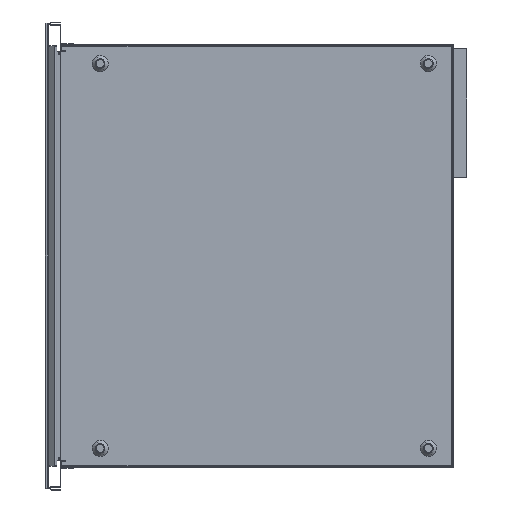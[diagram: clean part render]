
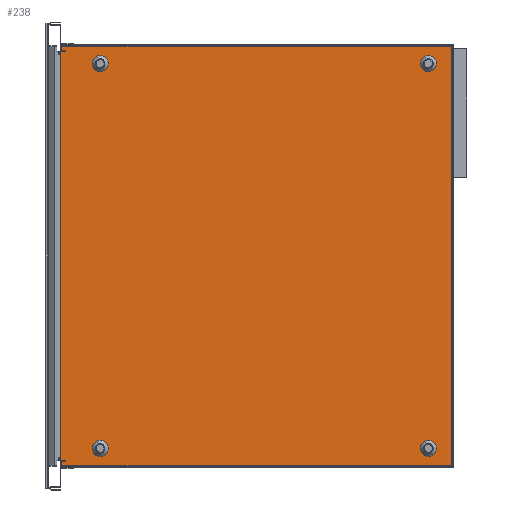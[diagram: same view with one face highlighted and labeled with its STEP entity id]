
A CAD part, front view. The second image highlights one B-rep face of the part: STEP entity #238.
In plain terms, the highlighted planar face has unit normal (0, -1, 0).
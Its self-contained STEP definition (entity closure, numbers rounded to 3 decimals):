
#61=AXIS2_PLACEMENT_3D('Circle Axis2P3D',#59,#60,$) ;
#78=AXIS2_PLACEMENT_3D('Circle Axis2P3D',#76,#77,$) ;
#144=AXIS2_PLACEMENT_3D('Plane Axis2P3D',#141,#142,#143) ;
#186=AXIS2_PLACEMENT_3D('Circle Axis2P3D',#184,#185,$) ;
#195=AXIS2_PLACEMENT_3D('Circle Axis2P3D',#193,#194,$) ;
#204=AXIS2_PLACEMENT_3D('Circle Axis2P3D',#202,#203,$) ;
#213=AXIS2_PLACEMENT_3D('Circle Axis2P3D',#211,#212,$) ;
#222=AXIS2_PLACEMENT_3D('Circle Axis2P3D',#220,#221,$) ;
#231=AXIS2_PLACEMENT_3D('Circle Axis2P3D',#229,#230,$) ;
#40=CARTESIAN_POINT('Vertex',(74.945,-276.,235.948)) ;
#56=CARTESIAN_POINT('Vertex',(65.055,-276.,254.052)) ;
#59=CARTESIAN_POINT('Axis2P3D Location',(70.,-276.,245.)) ;
#76=CARTESIAN_POINT('Axis2P3D Location',(70.,-276.,245.)) ;
#141=CARTESIAN_POINT('Axis2P3D Location',(0.,-276.,0.)) ;
#146=CARTESIAN_POINT('Line Origine',(268.825,-276.,-267.4)) ;
#150=CARTESIAN_POINT('Vertex',(517.65,-276.,-267.4)) ;
#152=CARTESIAN_POINT('Vertex',(20.,-276.,-267.4)) ;
#155=CARTESIAN_POINT('Line Origine',(517.65,-276.,0.)) ;
#159=CARTESIAN_POINT('Vertex',(517.65,-276.,267.4)) ;
#162=CARTESIAN_POINT('Line Origine',(268.825,-276.,267.4)) ;
#166=CARTESIAN_POINT('Vertex',(20.,-276.,267.4)) ;
#169=CARTESIAN_POINT('Line Origine',(20.,-276.,0.)) ;
#184=CARTESIAN_POINT('Axis2P3D Location',(70.,-276.,-245.)) ;
#188=CARTESIAN_POINT('Vertex',(74.945,-276.,-254.052)) ;
#190=CARTESIAN_POINT('Vertex',(65.055,-276.,-235.948)) ;
#193=CARTESIAN_POINT('Axis2P3D Location',(70.,-276.,-245.)) ;
#202=CARTESIAN_POINT('Axis2P3D Location',(488.,-276.,245.)) ;
#206=CARTESIAN_POINT('Vertex',(492.945,-276.,235.948)) ;
#208=CARTESIAN_POINT('Vertex',(483.055,-276.,254.052)) ;
#211=CARTESIAN_POINT('Axis2P3D Location',(488.,-276.,245.)) ;
#220=CARTESIAN_POINT('Axis2P3D Location',(488.,-276.,-245.)) ;
#224=CARTESIAN_POINT('Vertex',(492.945,-276.,-254.052)) ;
#226=CARTESIAN_POINT('Vertex',(483.055,-276.,-235.948)) ;
#229=CARTESIAN_POINT('Axis2P3D Location',(488.,-276.,-245.)) ;
#60=DIRECTION('Axis2P3D Direction',(0.,1.,-0.)) ;
#77=DIRECTION('Axis2P3D Direction',(0.,1.,-0.)) ;
#142=DIRECTION('Axis2P3D Direction',(0.,1.,0.)) ;
#143=DIRECTION('Axis2P3D XDirection',(-1.,0.,0.)) ;
#147=DIRECTION('Vector Direction',(1.,0.,0.)) ;
#156=DIRECTION('Vector Direction',(0.,0.,1.)) ;
#163=DIRECTION('Vector Direction',(-1.,0.,0.)) ;
#170=DIRECTION('Vector Direction',(0.,0.,-1.)) ;
#185=DIRECTION('Axis2P3D Direction',(0.,1.,0.)) ;
#194=DIRECTION('Axis2P3D Direction',(0.,1.,0.)) ;
#203=DIRECTION('Axis2P3D Direction',(0.,1.,0.)) ;
#212=DIRECTION('Axis2P3D Direction',(0.,1.,0.)) ;
#221=DIRECTION('Axis2P3D Direction',(0.,1.,0.)) ;
#230=DIRECTION('Axis2P3D Direction',(0.,1.,0.)) ;
#148=VECTOR('Line Direction',#147,1.) ;
#157=VECTOR('Line Direction',#156,1.) ;
#164=VECTOR('Line Direction',#163,1.) ;
#171=VECTOR('Line Direction',#170,1.) ;
#175=ORIENTED_EDGE('',*,*,#154,.F.) ;
#176=ORIENTED_EDGE('',*,*,#161,.F.) ;
#177=ORIENTED_EDGE('',*,*,#168,.F.) ;
#178=ORIENTED_EDGE('',*,*,#173,.F.) ;
#181=ORIENTED_EDGE('',*,*,#63,.F.) ;
#182=ORIENTED_EDGE('',*,*,#80,.F.) ;
#199=ORIENTED_EDGE('',*,*,#192,.F.) ;
#200=ORIENTED_EDGE('',*,*,#197,.F.) ;
#217=ORIENTED_EDGE('',*,*,#210,.F.) ;
#218=ORIENTED_EDGE('',*,*,#215,.F.) ;
#235=ORIENTED_EDGE('',*,*,#228,.F.) ;
#236=ORIENTED_EDGE('',*,*,#233,.F.) ;
#183=FACE_BOUND('',#180,.T.) ;
#201=FACE_BOUND('',#198,.T.) ;
#219=FACE_BOUND('',#216,.T.) ;
#237=FACE_BOUND('',#234,.T.) ;
#238=ADVANCED_FACE('Schublade.Geh\X2\00E4\X0\use',(#179,#183,#201,#219,#237),#145,.F.) ;
#62=CIRCLE('generated circle',#61,10.315) ;
#79=CIRCLE('generated circle',#78,10.315) ;
#187=CIRCLE('generated circle',#186,10.315) ;
#196=CIRCLE('generated circle',#195,10.315) ;
#205=CIRCLE('generated circle',#204,10.315) ;
#214=CIRCLE('generated circle',#213,10.315) ;
#223=CIRCLE('generated circle',#222,10.315) ;
#232=CIRCLE('generated circle',#231,10.315) ;
#63=EDGE_CURVE('',#57,#41,#62,.F.) ;
#80=EDGE_CURVE('',#41,#57,#79,.F.) ;
#154=EDGE_CURVE('',#151,#153,#149,.F.) ;
#161=EDGE_CURVE('',#160,#151,#158,.F.) ;
#168=EDGE_CURVE('',#167,#160,#165,.F.) ;
#173=EDGE_CURVE('',#153,#167,#172,.F.) ;
#192=EDGE_CURVE('',#189,#191,#187,.F.) ;
#197=EDGE_CURVE('',#191,#189,#196,.F.) ;
#210=EDGE_CURVE('',#207,#209,#205,.F.) ;
#215=EDGE_CURVE('',#209,#207,#214,.F.) ;
#228=EDGE_CURVE('',#225,#227,#223,.F.) ;
#233=EDGE_CURVE('',#227,#225,#232,.F.) ;
#174=EDGE_LOOP('',(#175,#176,#177,#178)) ;
#180=EDGE_LOOP('',(#181,#182)) ;
#198=EDGE_LOOP('',(#199,#200)) ;
#216=EDGE_LOOP('',(#217,#218)) ;
#234=EDGE_LOOP('',(#235,#236)) ;
#179=FACE_OUTER_BOUND('',#174,.T.) ;
#149=LINE('Line',#146,#148) ;
#158=LINE('Line',#155,#157) ;
#165=LINE('Line',#162,#164) ;
#172=LINE('Line',#169,#171) ;
#145=PLANE('',#144) ;
#41=VERTEX_POINT('',#40) ;
#57=VERTEX_POINT('',#56) ;
#151=VERTEX_POINT('',#150) ;
#153=VERTEX_POINT('',#152) ;
#160=VERTEX_POINT('',#159) ;
#167=VERTEX_POINT('',#166) ;
#189=VERTEX_POINT('',#188) ;
#191=VERTEX_POINT('',#190) ;
#207=VERTEX_POINT('',#206) ;
#209=VERTEX_POINT('',#208) ;
#225=VERTEX_POINT('',#224) ;
#227=VERTEX_POINT('',#226) ;
